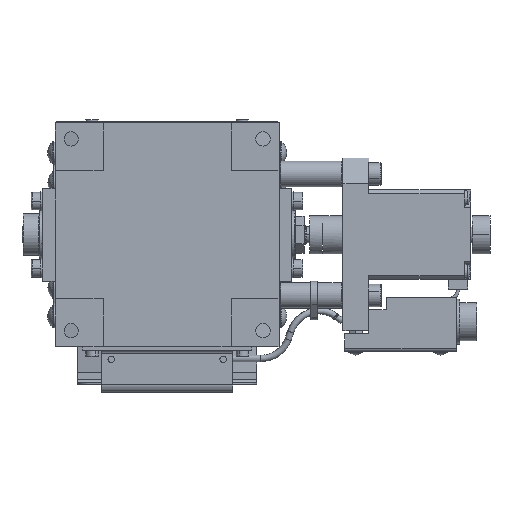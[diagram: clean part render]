
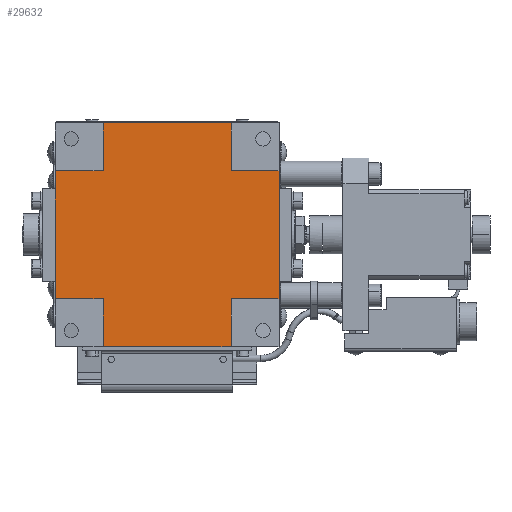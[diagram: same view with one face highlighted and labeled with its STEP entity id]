
A CAD part, front view. The second image highlights one B-rep face of the part: STEP entity #29632.
In plain terms, the highlighted planar face has unit normal (0, -1, 0).
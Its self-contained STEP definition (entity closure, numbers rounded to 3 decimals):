
#335 = LINE ( 'NONE', #9340, #10877 ) ;
#1134 = ORIENTED_EDGE ( 'NONE', *, *, #2407, .T. ) ;
#1183 = LINE ( 'NONE', #16938, #35832 ) ;
#1342 = ORIENTED_EDGE ( 'NONE', *, *, #6860, .T. ) ;
#1673 = VERTEX_POINT ( 'NONE', #30353 ) ;
#2407 = EDGE_CURVE ( 'NONE', #42751, #30738, #2756, .T. ) ;
#2756 = LINE ( 'NONE', #33595, #41113 ) ;
#2819 = DIRECTION ( 'NONE',  ( 0., 0., 1. ) ) ;
#3950 = VERTEX_POINT ( 'NONE', #26056 ) ;
#4021 = VECTOR ( 'NONE', #33564, 1000. ) ;
#4238 = AXIS2_PLACEMENT_3D ( 'NONE', #19522, #6217, #15888 ) ;
#4355 = EDGE_CURVE ( 'NONE', #20858, #30653, #42520, .T. ) ;
#4625 = LINE ( 'NONE', #28526, #21376 ) ;
#4859 = DIRECTION ( 'NONE',  ( 1., 0., 0. ) ) ;
#4904 = CARTESIAN_POINT ( 'NONE',  ( 20., 0.3, -35. ) ) ;
#6217 = DIRECTION ( 'NONE',  ( 0., 1., 0. ) ) ;
#6543 = EDGE_CURVE ( 'NONE', #21992, #40727, #4625, .T. ) ;
#6860 = EDGE_CURVE ( 'NONE', #40727, #31363, #41363, .T. ) ;
#6972 = DIRECTION ( 'NONE',  ( -1., 0., 0. ) ) ;
#7715 = EDGE_CURVE ( 'NONE', #3950, #26726, #23831, .T. ) ;
#7789 = CARTESIAN_POINT ( 'NONE',  ( -35., 0.3, 20. ) ) ;
#9015 = CARTESIAN_POINT ( 'NONE',  ( 20., 0.3, 20. ) ) ;
#9340 = CARTESIAN_POINT ( 'NONE',  ( 20., 0.3, -35. ) ) ;
#9691 = EDGE_CURVE ( 'NONE', #1673, #20858, #25781, .T. ) ;
#10522 = CARTESIAN_POINT ( 'NONE',  ( -20., 0.3, -35. ) ) ;
#10797 = DIRECTION ( 'NONE',  ( 1., 0., 0. ) ) ;
#10877 = VECTOR ( 'NONE', #36305, 1000. ) ;
#11410 = EDGE_CURVE ( 'NONE', #26726, #1673, #1183, .T. ) ;
#12274 = ORIENTED_EDGE ( 'NONE', *, *, #7715, .T. ) ;
#12732 = DIRECTION ( 'NONE',  ( 0., 0., -1. ) ) ;
#13883 = LINE ( 'NONE', #36248, #22269 ) ;
#15373 = CARTESIAN_POINT ( 'NONE',  ( 35., 0.3, -20. ) ) ;
#15888 = DIRECTION ( 'NONE',  ( -1., 0., 0. ) ) ;
#15895 = ORIENTED_EDGE ( 'NONE', *, *, #9691, .T. ) ;
#16374 = CARTESIAN_POINT ( 'NONE',  ( 20., 0.3, -20. ) ) ;
#16938 = CARTESIAN_POINT ( 'NONE',  ( -20., 0.3, 35. ) ) ;
#17932 = VECTOR ( 'NONE', #12732, 1000. ) ;
#18100 = CARTESIAN_POINT ( 'NONE',  ( 20., 0.3, 35. ) ) ;
#18196 = CARTESIAN_POINT ( 'NONE',  ( -35., 0.3, -20. ) ) ;
#19159 = DIRECTION ( 'NONE',  ( -1., 0., 0. ) ) ;
#19237 = EDGE_CURVE ( 'NONE', #30653, #36978, #25531, .T. ) ;
#19522 = CARTESIAN_POINT ( 'NONE',  ( 0., 0.3, 0. ) ) ;
#20052 = ORIENTED_EDGE ( 'NONE', *, *, #21281, .T. ) ;
#20198 = CARTESIAN_POINT ( 'NONE',  ( -20., 0.3, 20. ) ) ;
#20858 = VERTEX_POINT ( 'NONE', #20198 ) ;
#21281 = EDGE_CURVE ( 'NONE', #31363, #24032, #335, .T. ) ;
#21376 = VECTOR ( 'NONE', #31925, 1000. ) ;
#21484 = CARTESIAN_POINT ( 'NONE',  ( -35., 0.3, -20. ) ) ;
#21992 = VERTEX_POINT ( 'NONE', #28948 ) ;
#22269 = VECTOR ( 'NONE', #32577, 1000. ) ;
#22795 = EDGE_LOOP ( 'NONE', ( #26997, #1134, #36439, #12274, #43441, #15895, #29361, #43571, #38970, #27776, #1342, #20052 ) ) ;
#23159 = PLANE ( 'NONE',  #4238 ) ;
#23426 = VECTOR ( 'NONE', #10797, 1000. ) ;
#23831 = LINE ( 'NONE', #9015, #42855 ) ;
#24032 = VERTEX_POINT ( 'NONE', #26765 ) ;
#25099 = VECTOR ( 'NONE', #19159, 1000. ) ;
#25100 = EDGE_CURVE ( 'NONE', #30738, #3950, #13883, .T. ) ;
#25531 = LINE ( 'NONE', #36658, #4021 ) ;
#25781 = LINE ( 'NONE', #39147, #17932 ) ;
#26056 = CARTESIAN_POINT ( 'NONE',  ( 20., 0.3, 20. ) ) ;
#26551 = DIRECTION ( 'NONE',  ( 1., 0., 0. ) ) ;
#26726 = VERTEX_POINT ( 'NONE', #18100 ) ;
#26765 = CARTESIAN_POINT ( 'NONE',  ( 20., 0.3, -20. ) ) ;
#26997 = ORIENTED_EDGE ( 'NONE', *, *, #32744, .T. ) ;
#27776 = ORIENTED_EDGE ( 'NONE', *, *, #6543, .T. ) ;
#28398 = CARTESIAN_POINT ( 'NONE',  ( -20., 0.3, -35. ) ) ;
#28526 = CARTESIAN_POINT ( 'NONE',  ( -20., 0.3, -35. ) ) ;
#28583 = VECTOR ( 'NONE', #26551, 1000. ) ;
#28948 = CARTESIAN_POINT ( 'NONE',  ( -20., 0.3, -20. ) ) ;
#29144 = LINE ( 'NONE', #16374, #28583 ) ;
#29361 = ORIENTED_EDGE ( 'NONE', *, *, #4355, .T. ) ;
#29632 = ADVANCED_FACE ( 'NONE', ( #39168 ), #23159, .F. ) ;
#30175 = LINE ( 'NONE', #18196, #38063 ) ;
#30353 = CARTESIAN_POINT ( 'NONE',  ( -20., 0.3, 35. ) ) ;
#30653 = VERTEX_POINT ( 'NONE', #7789 ) ;
#30738 = VERTEX_POINT ( 'NONE', #42964 ) ;
#31363 = VERTEX_POINT ( 'NONE', #4904 ) ;
#31925 = DIRECTION ( 'NONE',  ( 0., 0., -1. ) ) ;
#32577 = DIRECTION ( 'NONE',  ( -1., 0., 0. ) ) ;
#32744 = EDGE_CURVE ( 'NONE', #24032, #42751, #29144, .T. ) ;
#33564 = DIRECTION ( 'NONE',  ( 0., 0., -1. ) ) ;
#33595 = CARTESIAN_POINT ( 'NONE',  ( 35., 0.3, 20. ) ) ;
#35832 = VECTOR ( 'NONE', #6972, 1000. ) ;
#36248 = CARTESIAN_POINT ( 'NONE',  ( 20., 0.3, 20. ) ) ;
#36305 = DIRECTION ( 'NONE',  ( 0., 0., 1. ) ) ;
#36439 = ORIENTED_EDGE ( 'NONE', *, *, #25100, .T. ) ;
#36658 = CARTESIAN_POINT ( 'NONE',  ( -35., 0.3, 20. ) ) ;
#36978 = VERTEX_POINT ( 'NONE', #21484 ) ;
#38063 = VECTOR ( 'NONE', #4859, 1000. ) ;
#38970 = ORIENTED_EDGE ( 'NONE', *, *, #40762, .T. ) ;
#39098 = DIRECTION ( 'NONE',  ( 0., 0., 1. ) ) ;
#39139 = CARTESIAN_POINT ( 'NONE',  ( -35., 0.3, 20. ) ) ;
#39147 = CARTESIAN_POINT ( 'NONE',  ( -20., 0.3, 20. ) ) ;
#39168 = FACE_OUTER_BOUND ( 'NONE', #22795, .T. ) ;
#40727 = VERTEX_POINT ( 'NONE', #28398 ) ;
#40762 = EDGE_CURVE ( 'NONE', #36978, #21992, #30175, .T. ) ;
#41113 = VECTOR ( 'NONE', #2819, 1000. ) ;
#41363 = LINE ( 'NONE', #10522, #23426 ) ;
#42520 = LINE ( 'NONE', #39139, #25099 ) ;
#42751 = VERTEX_POINT ( 'NONE', #15373 ) ;
#42855 = VECTOR ( 'NONE', #39098, 1000. ) ;
#42964 = CARTESIAN_POINT ( 'NONE',  ( 35., 0.3, 20. ) ) ;
#43441 = ORIENTED_EDGE ( 'NONE', *, *, #11410, .T. ) ;
#43571 = ORIENTED_EDGE ( 'NONE', *, *, #19237, .T. ) ;
